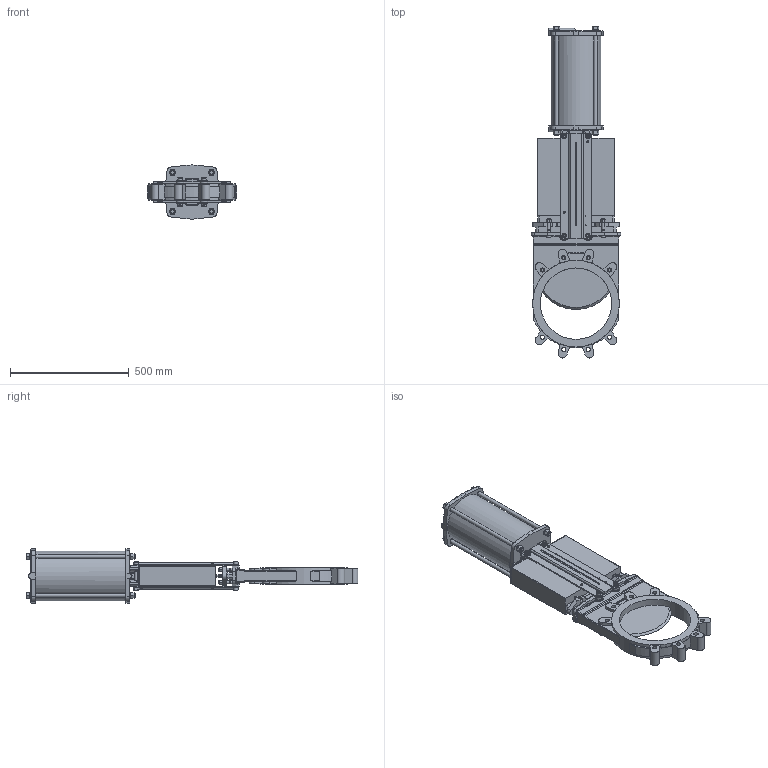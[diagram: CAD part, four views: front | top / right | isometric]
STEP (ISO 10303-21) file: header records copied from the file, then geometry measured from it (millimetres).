
FILE_DESCRIPTION(/* description */ (''),/* implementation_level */ '2;1');
FILE_NAME(/* name */ 'KG01-KG02 DA DN300.step',/* time_stamp */ '2023-06-26T11:39:06+02:00',/* author */ (''),/* organization */ (''),/* preprocessor_version */ 'ST-DEVELOPER v19.2',/* originating_system */ 'Autodesk Translation Framework v12.6.0.85',/* authorisation */ '');
FILE_SCHEMA (('AUTOMOTIVE_DESIGN { 1 0 10303 214 3 1 1 }'));
Length unit declared in the file: millimetre
Products named in the file (1): KG01-KG02 DA DN300
Bounding box: 375 x 1396.69 x 227.93 mm (x, y, z)
Volume: 32243225.6 mm3; surface area: 1611955 mm2
Topology: 14 solids, 14 shells, 1427 faces, 3612 edges, 2252 vertices
Faces by surface type: plane 645, cylinder 403, cone 221, bspline 88, torus 56, sphere 14
Full cylindrical faces by diameter (mm): 3.5 x2, 4.2 x3, 8.5 x6, 10 x1, 10.2 x8, 12 x20, 12.2 x6, 13 x6, 13.2 x4, 14 x8, 16 x12, 17.5 x20, 17.73 x2, 18 x4, 18.4 x6, 24 x6, 30 x1, 210 x1, 300 x1, 365 x1
Entity records: 47218 total; most frequent: CARTESIAN_POINT 13673, ORIENTED_EDGE 7176, DIRECTION 6957, EDGE_CURVE 3588, AXIS2_PLACEMENT_3D 2653, VERTEX_POINT 2252, LINE 1651, VECTOR 1651
